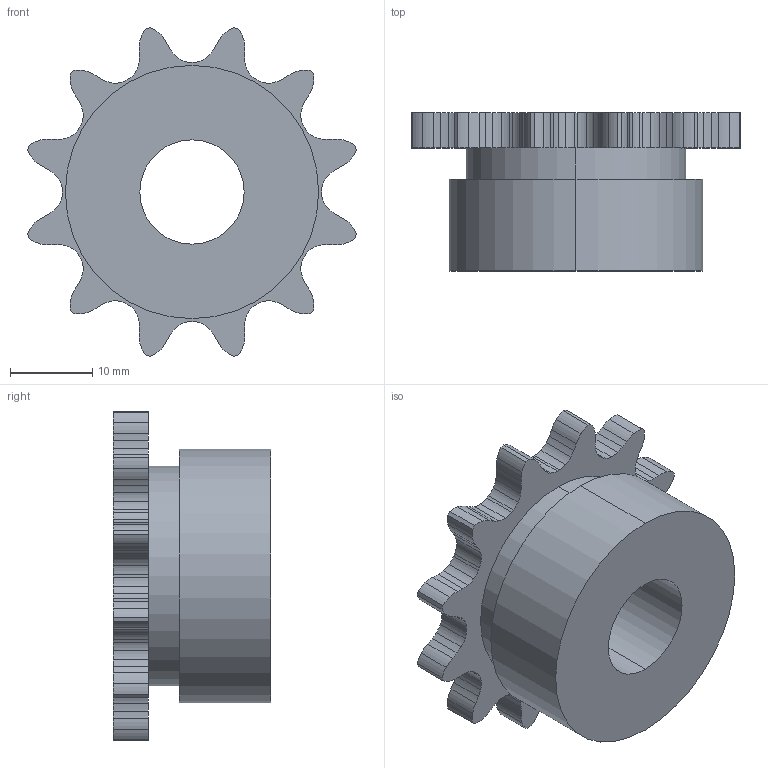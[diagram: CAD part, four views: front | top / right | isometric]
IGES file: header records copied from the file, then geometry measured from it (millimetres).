
Global section: file name: C:\Documents and Settings\Administrator\Desktop\Transfer Temp\rcss-3812.igs; native system: AutoDesk Inventor R2.0 ; preprocessor: AutoDesk Inventor Iges Exporter R2.0; author: No Author specified; organization: No Organization specified; date: 20011229.131122; units: inch
Bounding box: 40.08 x 19.25 x 40.08 mm (x, y, z)
Surface area: 5016.2 mm2 (no closed solid volume)
Topology: 0 solids, 0 shells, 178 faces, 1044 edges, 1044 vertices
Faces by surface type: revolution 150, bspline 28
